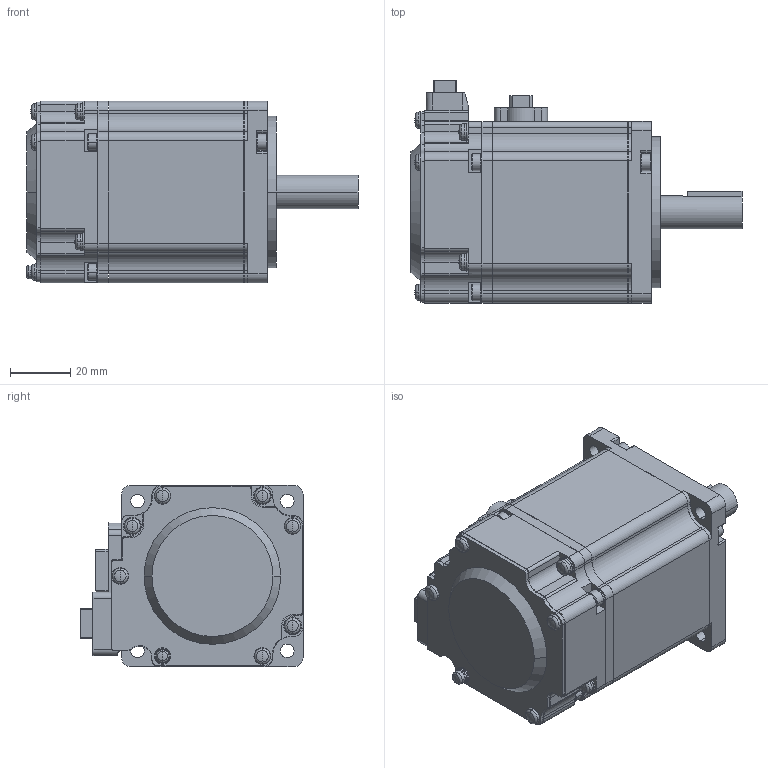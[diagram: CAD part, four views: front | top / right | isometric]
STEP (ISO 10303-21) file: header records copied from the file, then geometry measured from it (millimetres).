
FILE_DESCRIPTION( ( '' ), '1' );
FILE_NAME( '//expscmdclustefs.cadenas.external/client_exchange/iodir/jobs/output/wkb53604956_no0/STEP/MSME022G1U_1__2_03.stp', '2013-01-24T13:03:58', ( '' ), ( '' ), ' ', ' ', ' ' );
FILE_SCHEMA( ( 'CONFIG_CONTROL_DESIGN' ) );
Length unit declared in the file: millimetre
Products named in the file (1): 1
Bounding box: 109.8 x 73.5 x 60 mm (x, y, z)
Volume: 263532.4 mm3; surface area: 35610.7 mm2
Topology: 1 solids, 1 shells, 753 faces, 2007 edges, 1306 vertices
Faces by surface type: plane 396, cylinder 281, cone 40, torus 36
Entity records: 23553 total; most frequent: DIRECTION 4183, CARTESIAN_POINT 4155, ORIENTED_EDGE 3970, EDGE_CURVE 1985, AXIS2_PLACEMENT_3D 1450, VERTEX_POINT 1306, LINE 1283, VECTOR 1283
